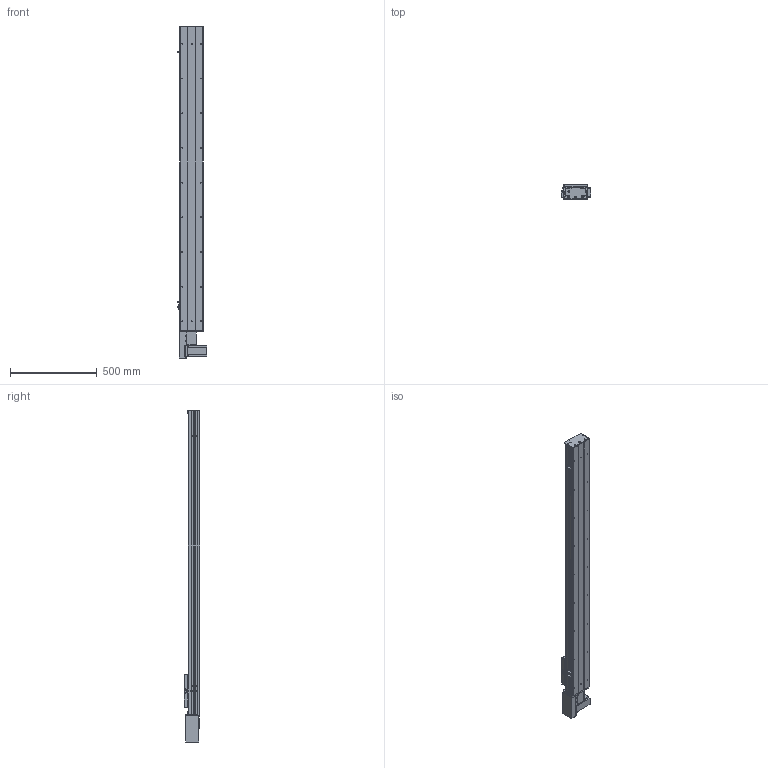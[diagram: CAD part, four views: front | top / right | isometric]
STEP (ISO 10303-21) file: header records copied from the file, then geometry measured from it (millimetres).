
FILE_DESCRIPTION (( 'STEP AP203' ), '1' );
FILE_NAME ('Y135CB-D90-S1450-BR-P400W.STEP', '2020-02-18T02:38:05', ( '微软用户' ), ( '微软中国' ), 'SwSTEP 2.0', 'SolidWorks 2017', '' );
FILE_SCHEMA (( 'CONFIG_CONTROL_DESIGN' ));
Length unit declared in the file: millimetre
Products named in the file (18): san松下电机400不带刹车----; Y135CB-耜裔; 5CB --掛极耜裔啣-; 135CB---遴掛极.-; C-詩湍揤踡え-陔; 35CB---喘謫眊楊擘啣; 135CB--詩湍-CE; Y10B-耜蚾蟀諉啣----; Y100-135俋离換覜ん--; Y俋欶BR----; Y135C-陔俋离換覜結え-; C-雄赽釱--; 0B-埴倛裔啣; 5C--俋欶; Y10B--々湍喘謫眊--666; 0B-源倛裔啣; Y135CB-D90-S1450-BR-P400W; 0B-萇儂楊擘啣
Assembly tree (21 placements, depth 2):
  Y135CB-D90-S1450-BR-P400W
    Y135CB-耜裔
    135CB---遴掛极.-
    35CB---喘謫眊楊擘啣
    Y10B-耜蚾蟀諉啣----
    Y俋欶BR----
    0B-埴倛裔啣
    0B-源倛裔啣
    0B-萇儂楊擘啣
    san松下电机400不带刹车----
    5CB --掛极耜裔啣-  x2
    C-詩湍揤踡え-陔  x2
    135CB--詩湍-CE
    Y100-135俋离換覜ん--  x3
    Y135C-陔俋离換覜結え-
    5C--俋欶
    C-雄赽釱--
    Y10B--々湍喘謫眊--666
Bounding box: 167.5 x 91 x 1914.5 mm (x, y, z)
Volume: 5555969.3 mm3; surface area: 2186434.6 mm2
Topology: 21 solids, 21 shells, 953 faces, 2563 edges, 1698 vertices
Faces by surface type: cylinder 479, plane 458, cone 16
Entity records: 29745 total; most frequent: DIRECTION 4939, CARTESIAN_POINT 4900, ORIENTED_EDGE 4602, EDGE_CURVE 2301, AXIS2_PLACEMENT_3D 1801, VERTEX_POINT 1526, LINE 1337, VECTOR 1337
